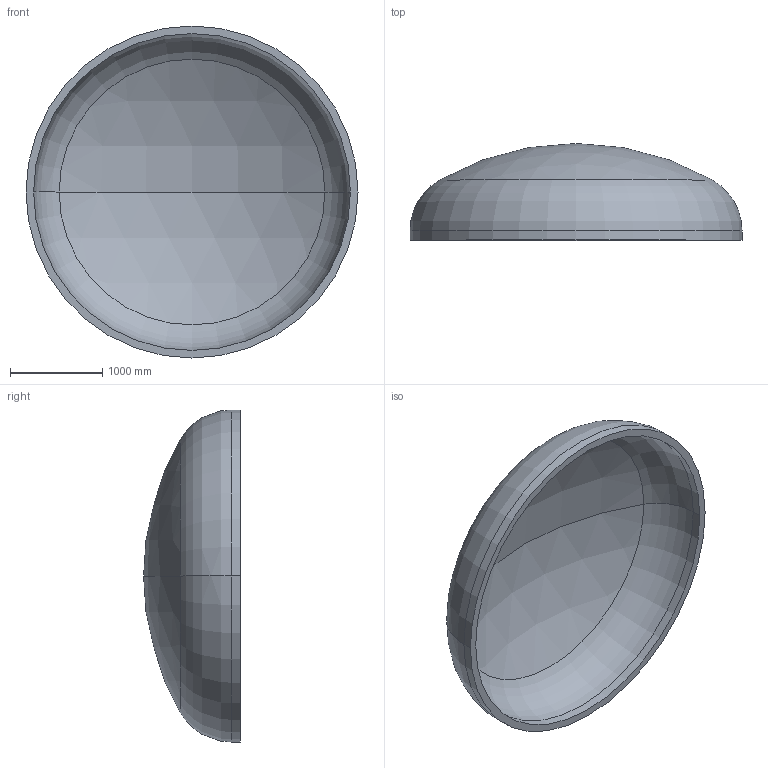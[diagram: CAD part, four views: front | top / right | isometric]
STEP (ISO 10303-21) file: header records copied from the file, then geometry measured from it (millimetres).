
FILE_DESCRIPTION (( 'STEP AP203' ), '1' );
FILE_NAME ('DIN 28013 Korbbogenform_-_Boden DIN 28013 - 3600 x 100 - I - s=82.step', '2016-07-01T20:42:48', ( '' ), ( '' ), 'SwSTEP 2.0', 'SolidWorks 2013', '' );
FILE_SCHEMA (( 'CONFIG_CONTROL_DESIGN' ));
Length unit declared in the file: millimetre
Products named in the file (1): DIN 28013 Korbbogenform_-_Boden DIN 28013 - 3600 x 100 - I - s=82
Bounding box: 3600 x 1048.78 x 3600 mm (x, y, z)
Volume: 1212776722.4 mm3; surface area: 30500266.6 mm2
Topology: 1 solids, 1 shells, 13 faces, 24 edges, 14 vertices
Faces by surface type: torus 4, cylinder 4, sphere 4, plane 1
Entity records: 407 total; most frequent: DIRECTION 72, CARTESIAN_POINT 52, ORIENTED_EDGE 48, AXIS2_PLACEMENT_3D 34, EDGE_CURVE 24, CIRCLE 20, EDGE_LOOP 14, VERTEX_POINT 14
